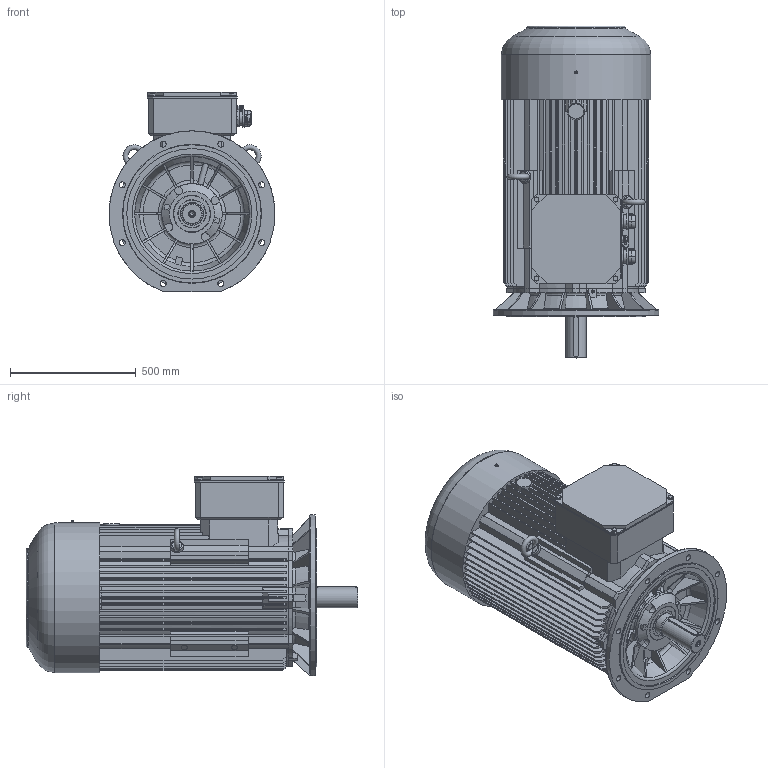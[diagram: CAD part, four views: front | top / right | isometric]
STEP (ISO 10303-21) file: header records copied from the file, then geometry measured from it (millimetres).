
FILE_DESCRIPTION(/* description */ ('Unknown','CAx-IF Rec.Pracs.---Representation and Presentation of Product Manufacturing Information (PMI)---4.0---2014-10-13','CAx-IF Rec.Pracs.---3D Tessellated Geometry---0.4---2014-09-14','2;1'),/* implementation_level */ '2;1');
FILE_NAME(/* name */ '4SIE3K15 M4B',/* time_stamp */ '2023-03-22T13:18:13+01:00',/* author */ ('Unknown'),/* organization */ ('Unknown'),/* preprocessor_version */ 'ST-DEVELOPER v16.7',/* originating_system */ 'DEX',/* authorisation */ $);
FILE_SCHEMA (('AP242_MANAGED_MODEL_BASED_3D_ENGINEERING_MIM_LF { 1 0 10303 442 20130219 1 4 }'));
Products named in the file (1): 4SIE3K15 M4B
Bounding box: 660 x 1320 x 793.5 mm (x, y, z)
Volume: 280240542.2 mm3; surface area: 6723719.3 mm2
Topology: 4 solids, 19 shells, 1781 faces, 5091 edges, 3338 vertices
Faces by surface type: plane 895, cylinder 531, torus 158, cone 125, sphere 56, bspline 16
Full cylindrical faces by diameter (mm): 1.6 x2, 5 x4, 6.595 x1, 8.698 x1, 9 x1, 9.306 x1, 10.106 x4, 11 x1, 11.352 x1, 13 x1, 13.835 x1, 16.63 x4, 17 x1, 17.294 x1, 18 x1, 20 x2, 21 x1, 21.546 x1, 24 x12, 27 x1, 38.657 x2, 42.657 x2, 44 x2, 47 x2, 50 x2, 54 x2, 75 x2, 79.999 x1, 89.5 x1, 90 x1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
Entity records: 73583 total; most frequent: CARTESIAN_POINT 16866, ORIENTED_EDGE 9456, DIRECTION 9058, EDGE_CURVE 4728, AXIS2_PLACEMENT_3D 3363, VERTEX_POINT 3167, LINE 2332, VECTOR 2332
